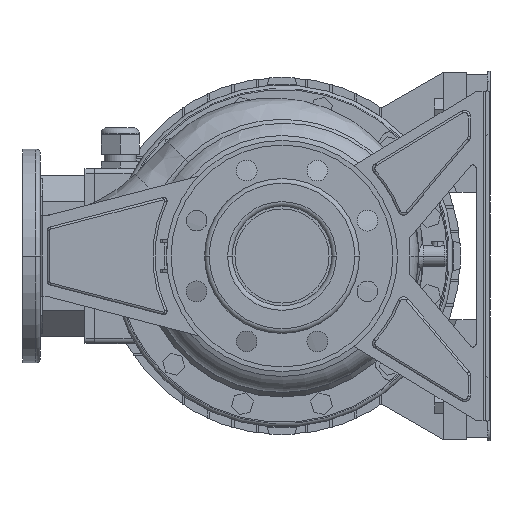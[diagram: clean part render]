
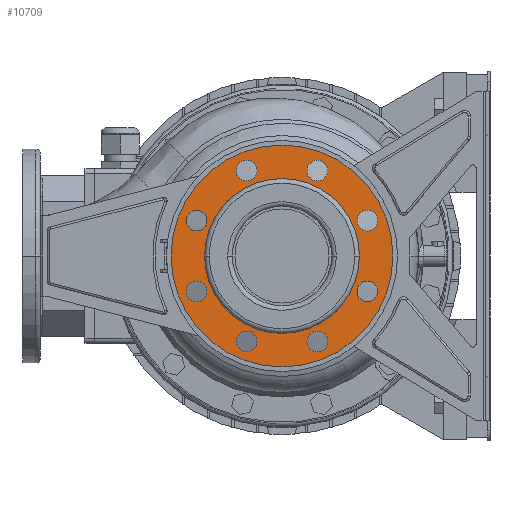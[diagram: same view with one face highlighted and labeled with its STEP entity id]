
A CAD part, left-side view. The second image highlights one B-rep face of the part: STEP entity #10709.
In plain terms, the highlighted planar face has unit normal (-1, 0, 0).
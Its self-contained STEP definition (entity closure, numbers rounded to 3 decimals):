
#9986=CARTESIAN_POINT('',(14.,0.,0.));
#9987=DIRECTION('',(-1.,0.,0.));
#9988=DIRECTION('',(0.,1.,0.));
#9989=AXIS2_PLACEMENT_3D('',#9986,#9987,#9988);
#9991=CARTESIAN_POINT('',(14.,0.,0.));
#9992=DIRECTION('',(1.,0.,0.));
#9993=DIRECTION('',(0.,1.,0.));
#9994=AXIS2_PLACEMENT_3D('',#9991,#9992,#9993);
#9996=CARTESIAN_POINT('',(14.,-73.91,30.615));
#9997=DIRECTION('',(1.,0.,0.));
#9998=DIRECTION('',(0.,1.,0.));
#9999=AXIS2_PLACEMENT_3D('',#9996,#9997,#9998);
#10001=CARTESIAN_POINT('',(14.,-73.91,30.615));
#10002=DIRECTION('',(1.,0.,0.));
#10003=DIRECTION('',(0.,-1.,0.));
#10004=AXIS2_PLACEMENT_3D('',#10001,#10002,#10003);
#10006=CARTESIAN_POINT('',(14.,-73.91,-30.615));
#10007=DIRECTION('',(1.,0.,0.));
#10008=DIRECTION('',(0.,0.707,0.707));
#10009=AXIS2_PLACEMENT_3D('',#10006,#10007,#10008);
#10011=CARTESIAN_POINT('',(14.,-73.91,-30.615));
#10012=DIRECTION('',(1.,0.,0.));
#10013=DIRECTION('',(0.,-0.707,-0.707));
#10014=AXIS2_PLACEMENT_3D('',#10011,#10012,#10013);
#10016=CARTESIAN_POINT('',(14.,-30.615,-73.91));
#10017=DIRECTION('',(1.,0.,0.));
#10018=DIRECTION('',(0.,0.,1.));
#10019=AXIS2_PLACEMENT_3D('',#10016,#10017,#10018);
#10021=CARTESIAN_POINT('',(14.,-30.615,-73.91));
#10022=DIRECTION('',(1.,0.,0.));
#10023=DIRECTION('',(0.,0.,-1.));
#10024=AXIS2_PLACEMENT_3D('',#10021,#10022,#10023);
#10026=CARTESIAN_POINT('',(14.,30.615,-73.91));
#10027=DIRECTION('',(1.,0.,0.));
#10028=DIRECTION('',(0.,-0.707,0.707));
#10029=AXIS2_PLACEMENT_3D('',#10026,#10027,#10028);
#10031=CARTESIAN_POINT('',(14.,30.615,-73.91));
#10032=DIRECTION('',(1.,0.,0.));
#10033=DIRECTION('',(0.,0.707,-0.707));
#10034=AXIS2_PLACEMENT_3D('',#10031,#10032,#10033);
#10036=CARTESIAN_POINT('',(14.,73.91,-30.615));
#10037=DIRECTION('',(1.,0.,0.));
#10038=DIRECTION('',(0.,-1.,0.));
#10039=AXIS2_PLACEMENT_3D('',#10036,#10037,#10038);
#10041=CARTESIAN_POINT('',(14.,73.91,-30.615));
#10042=DIRECTION('',(1.,0.,0.));
#10043=DIRECTION('',(0.,1.,0.));
#10044=AXIS2_PLACEMENT_3D('',#10041,#10042,#10043);
#10046=CARTESIAN_POINT('',(14.,73.91,30.615));
#10047=DIRECTION('',(1.,0.,0.));
#10048=DIRECTION('',(0.,-0.707,-0.707));
#10049=AXIS2_PLACEMENT_3D('',#10046,#10047,#10048);
#10051=CARTESIAN_POINT('',(14.,73.91,30.615));
#10052=DIRECTION('',(1.,0.,0.));
#10053=DIRECTION('',(0.,0.707,0.707));
#10054=AXIS2_PLACEMENT_3D('',#10051,#10052,#10053);
#10056=CARTESIAN_POINT('',(14.,30.615,73.91));
#10057=DIRECTION('',(1.,0.,0.));
#10058=DIRECTION('',(0.,0.,-1.));
#10059=AXIS2_PLACEMENT_3D('',#10056,#10057,#10058);
#10061=CARTESIAN_POINT('',(14.,30.615,73.91));
#10062=DIRECTION('',(1.,0.,0.));
#10063=DIRECTION('',(0.,0.,1.));
#10064=AXIS2_PLACEMENT_3D('',#10061,#10062,#10063);
#10066=CARTESIAN_POINT('',(14.,-30.615,73.91));
#10067=DIRECTION('',(1.,0.,0.));
#10068=DIRECTION('',(0.,0.707,-0.707));
#10069=AXIS2_PLACEMENT_3D('',#10066,#10067,#10068);
#10071=CARTESIAN_POINT('',(14.,-30.615,73.91));
#10072=DIRECTION('',(1.,0.,0.));
#10073=DIRECTION('',(0.,-0.707,0.707));
#10074=AXIS2_PLACEMENT_3D('',#10071,#10072,#10073);
#10076=CARTESIAN_POINT('',(14.,0.,0.));
#10077=DIRECTION('',(1.,0.,0.));
#10078=DIRECTION('',(0.,1.,0.));
#10079=AXIS2_PLACEMENT_3D('',#10076,#10077,#10078);
#10089=CARTESIAN_POINT('',(14.,0.,0.));
#10090=DIRECTION('',(-1.,0.,0.));
#10091=DIRECTION('',(0.,1.,0.));
#10092=AXIS2_PLACEMENT_3D('',#10089,#10090,#10091);
#10229=CARTESIAN_POINT('',(14.,96.,0.));
#10231=VERTEX_POINT('',#10229);
#10232=CARTESIAN_POINT('',(14.,67.,0.));
#10234=VERTEX_POINT('',#10232);
#10261=CARTESIAN_POINT('',(14.,-96.,0.));
#10263=VERTEX_POINT('',#10261);
#10264=CARTESIAN_POINT('',(14.,-67.,0.));
#10266=VERTEX_POINT('',#10264);
#10276=CARTESIAN_POINT('',(14.,-64.91,30.615));
#10277=CARTESIAN_POINT('',(14.,-82.91,30.615));
#10278=VERTEX_POINT('',#10276);
#10279=VERTEX_POINT('',#10277);
#10284=CARTESIAN_POINT('',(14.,-67.546,-24.251));
#10285=CARTESIAN_POINT('',(14.,-80.274,-36.979));
#10286=VERTEX_POINT('',#10284);
#10287=VERTEX_POINT('',#10285);
#10292=CARTESIAN_POINT('',(14.,-30.615,-64.91));
#10293=CARTESIAN_POINT('',(14.,-30.615,-82.91));
#10294=VERTEX_POINT('',#10292);
#10295=VERTEX_POINT('',#10293);
#10300=CARTESIAN_POINT('',(14.,24.251,-67.546));
#10301=CARTESIAN_POINT('',(14.,36.979,-80.274));
#10302=VERTEX_POINT('',#10300);
#10303=VERTEX_POINT('',#10301);
#10308=CARTESIAN_POINT('',(14.,64.91,-30.615));
#10309=CARTESIAN_POINT('',(14.,82.91,-30.615));
#10310=VERTEX_POINT('',#10308);
#10311=VERTEX_POINT('',#10309);
#10316=CARTESIAN_POINT('',(14.,67.546,24.251));
#10317=CARTESIAN_POINT('',(14.,80.274,36.979));
#10318=VERTEX_POINT('',#10316);
#10319=VERTEX_POINT('',#10317);
#10324=CARTESIAN_POINT('',(14.,30.615,64.91));
#10325=CARTESIAN_POINT('',(14.,30.615,82.91));
#10326=VERTEX_POINT('',#10324);
#10327=VERTEX_POINT('',#10325);
#10332=CARTESIAN_POINT('',(14.,-24.251,67.546));
#10333=CARTESIAN_POINT('',(14.,-36.979,80.274));
#10334=VERTEX_POINT('',#10332);
#10335=VERTEX_POINT('',#10333);
#10646=CARTESIAN_POINT('',(14.,0.,0.));
#10647=DIRECTION('',(1.,0.,0.));
#10648=DIRECTION('',(0.,-1.,0.));
#10649=AXIS2_PLACEMENT_3D('',#10646,#10647,#10648);
#10650=PLANE('',#10649);
#10651=ORIENTED_EDGE('',*,*,#10639,.F.);
#10652=ORIENTED_EDGE('',*,*,#10628,.T.);
#10653=EDGE_LOOP('',(#10651,#10652));
#10654=FACE_OUTER_BOUND('',#10653,.F.);
#10656=ORIENTED_EDGE('',*,*,#10655,.F.);
#10658=ORIENTED_EDGE('',*,*,#10657,.T.);
#10659=EDGE_LOOP('',(#10656,#10658));
#10660=FACE_BOUND('',#10659,.F.);
#10662=ORIENTED_EDGE('',*,*,#10661,.F.);
#10664=ORIENTED_EDGE('',*,*,#10663,.F.);
#10665=EDGE_LOOP('',(#10662,#10664));
#10666=FACE_BOUND('',#10665,.F.);
#10668=ORIENTED_EDGE('',*,*,#10667,.F.);
#10670=ORIENTED_EDGE('',*,*,#10669,.F.);
#10671=EDGE_LOOP('',(#10668,#10670));
#10672=FACE_BOUND('',#10671,.F.);
#10674=ORIENTED_EDGE('',*,*,#10673,.F.);
#10676=ORIENTED_EDGE('',*,*,#10675,.F.);
#10677=EDGE_LOOP('',(#10674,#10676));
#10678=FACE_BOUND('',#10677,.F.);
#10680=ORIENTED_EDGE('',*,*,#10679,.F.);
#10682=ORIENTED_EDGE('',*,*,#10681,.F.);
#10683=EDGE_LOOP('',(#10680,#10682));
#10684=FACE_BOUND('',#10683,.F.);
#10686=ORIENTED_EDGE('',*,*,#10685,.F.);
#10688=ORIENTED_EDGE('',*,*,#10687,.F.);
#10689=EDGE_LOOP('',(#10686,#10688));
#10690=FACE_BOUND('',#10689,.F.);
#10692=ORIENTED_EDGE('',*,*,#10691,.F.);
#10694=ORIENTED_EDGE('',*,*,#10693,.F.);
#10695=EDGE_LOOP('',(#10692,#10694));
#10696=FACE_BOUND('',#10695,.F.);
#10698=ORIENTED_EDGE('',*,*,#10697,.F.);
#10700=ORIENTED_EDGE('',*,*,#10699,.F.);
#10701=EDGE_LOOP('',(#10698,#10700));
#10702=FACE_BOUND('',#10701,.F.);
#10704=ORIENTED_EDGE('',*,*,#10703,.F.);
#10706=ORIENTED_EDGE('',*,*,#10705,.F.);
#10707=EDGE_LOOP('',(#10704,#10706));
#10708=FACE_BOUND('',#10707,.F.);
#9990=CIRCLE('',#9989,96.);
#9995=CIRCLE('',#9994,96.);
#10000=CIRCLE('',#9999,9.);
#10005=CIRCLE('',#10004,9.);
#10010=CIRCLE('',#10009,9.);
#10015=CIRCLE('',#10014,9.);
#10020=CIRCLE('',#10019,9.);
#10025=CIRCLE('',#10024,9.);
#10030=CIRCLE('',#10029,9.);
#10035=CIRCLE('',#10034,9.);
#10040=CIRCLE('',#10039,9.);
#10045=CIRCLE('',#10044,9.);
#10050=CIRCLE('',#10049,9.);
#10055=CIRCLE('',#10054,9.);
#10060=CIRCLE('',#10059,9.);
#10065=CIRCLE('',#10064,9.);
#10070=CIRCLE('',#10069,9.);
#10075=CIRCLE('',#10074,9.);
#10080=CIRCLE('',#10079,67.);
#10093=CIRCLE('',#10092,67.);
#10628=EDGE_CURVE('',#10231,#10263,#9995,.T.);
#10639=EDGE_CURVE('',#10231,#10263,#9990,.T.);
#10655=EDGE_CURVE('',#10234,#10266,#10080,.T.);
#10657=EDGE_CURVE('',#10234,#10266,#10093,.T.);
#10661=EDGE_CURVE('',#10278,#10279,#10000,.T.);
#10663=EDGE_CURVE('',#10279,#10278,#10005,.T.);
#10667=EDGE_CURVE('',#10286,#10287,#10010,.T.);
#10669=EDGE_CURVE('',#10287,#10286,#10015,.T.);
#10673=EDGE_CURVE('',#10294,#10295,#10020,.T.);
#10675=EDGE_CURVE('',#10295,#10294,#10025,.T.);
#10679=EDGE_CURVE('',#10302,#10303,#10030,.T.);
#10681=EDGE_CURVE('',#10303,#10302,#10035,.T.);
#10685=EDGE_CURVE('',#10310,#10311,#10040,.T.);
#10687=EDGE_CURVE('',#10311,#10310,#10045,.T.);
#10691=EDGE_CURVE('',#10318,#10319,#10050,.T.);
#10693=EDGE_CURVE('',#10319,#10318,#10055,.T.);
#10697=EDGE_CURVE('',#10326,#10327,#10060,.T.);
#10699=EDGE_CURVE('',#10327,#10326,#10065,.T.);
#10703=EDGE_CURVE('',#10334,#10335,#10070,.T.);
#10705=EDGE_CURVE('',#10335,#10334,#10075,.T.);
#10709=ADVANCED_FACE('',(#10654,#10660,#10666,#10672,#10678,#10684,#10690,
#10696,#10702,#10708),#10650,.F.);
